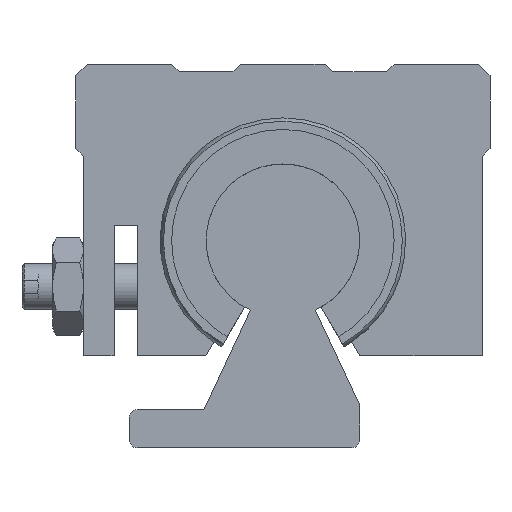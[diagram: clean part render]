
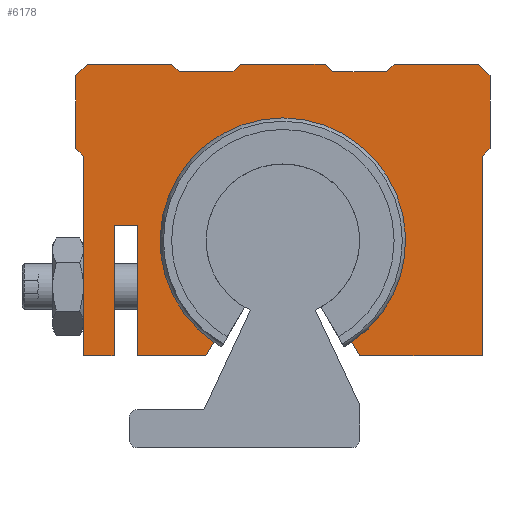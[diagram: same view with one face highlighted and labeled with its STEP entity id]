
A CAD part, left-side view. The second image highlights one B-rep face of the part: STEP entity #6178.
In plain terms, the highlighted planar face has unit normal (-1, 0, 0).
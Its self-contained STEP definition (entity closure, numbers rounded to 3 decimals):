
#4931=CARTESIAN_POINT('',(272.131,-9.0,13.771));
#4932=VERTEX_POINT('',#4931);
#4939=CARTESIAN_POINT('',(272.131,9.0,13.771));
#4940=VERTEX_POINT('',#4939);
#4941=CARTESIAN_POINT('',(272.131,0.0,27.0));
#4942=DIRECTION('',(-1.0,0.0,0.0));
#4943=DIRECTION('',(0.0,-1.0,0.0));
#4944=AXIS2_PLACEMENT_3D('',#4941,#4942,#4943);
#4945=CIRCLE('',#4944,16.0);
#4946=EDGE_CURVE('',#4932,#4940,#4945,.T.);
#5038=CARTESIAN_POINT('',(272.131,-5.5,50.0));
#5039=VERTEX_POINT('',#5038);
#5040=CARTESIAN_POINT('',(272.131,-6.5,49.0));
#5041=VERTEX_POINT('',#5040);
#5042=CARTESIAN_POINT('',(272.131,-5.5,50.0));
#5043=DIRECTION('',(0.0,-0.707,-0.707));
#5044=VECTOR('',#5043,1.414);
#5045=LINE('',#5042,#5044);
#5046=EDGE_CURVE('',#5039,#5041,#5045,.T.);
#5079=CARTESIAN_POINT('',(272.131,-13.5,49.0));
#5080=VERTEX_POINT('',#5079);
#5081=CARTESIAN_POINT('',(272.131,-6.5,49.0));
#5082=DIRECTION('',(0.0,-1.0,0.0));
#5083=VECTOR('',#5082,7.);
#5084=LINE('',#5081,#5083);
#5085=EDGE_CURVE('',#5041,#5080,#5084,.T.);
#5109=CARTESIAN_POINT('',(272.131,14.5,50.0));
#5110=VERTEX_POINT('',#5109);
#5111=CARTESIAN_POINT('',(272.131,13.5,49.0));
#5112=VERTEX_POINT('',#5111);
#5113=CARTESIAN_POINT('',(272.131,14.5,50.0));
#5114=DIRECTION('',(0.0,-0.707,-0.707));
#5115=VECTOR('',#5114,1.414);
#5116=LINE('',#5113,#5115);
#5117=EDGE_CURVE('',#5110,#5112,#5116,.T.);
#5150=CARTESIAN_POINT('',(272.131,6.5,49.0));
#5151=VERTEX_POINT('',#5150);
#5152=CARTESIAN_POINT('',(272.131,13.5,49.0));
#5153=DIRECTION('',(0.0,-1.0,0.0));
#5154=VECTOR('',#5153,7.);
#5155=LINE('',#5152,#5154);
#5156=EDGE_CURVE('',#5112,#5151,#5155,.T.);
#5180=CARTESIAN_POINT('',(272.131,5.5,50.0));
#5181=VERTEX_POINT('',#5180);
#5182=CARTESIAN_POINT('',(272.131,6.5,49.0));
#5183=DIRECTION('',(0.0,-0.707,0.707));
#5184=VECTOR('',#5183,1.414);
#5185=LINE('',#5182,#5184);
#5186=EDGE_CURVE('',#5151,#5181,#5185,.T.);
#5211=CARTESIAN_POINT('',(272.131,-14.5,50.0));
#5212=VERTEX_POINT('',#5211);
#5213=CARTESIAN_POINT('',(272.131,-13.5,49.0));
#5214=DIRECTION('',(0.0,-0.707,0.707));
#5215=VECTOR('',#5214,1.414);
#5216=LINE('',#5213,#5215);
#5217=EDGE_CURVE('',#5080,#5212,#5216,.T.);
#5242=CARTESIAN_POINT('',(272.131,26.0,38.0));
#5243=VERTEX_POINT('',#5242);
#5244=CARTESIAN_POINT('',(272.131,27.0,39.0));
#5245=VERTEX_POINT('',#5244);
#5246=CARTESIAN_POINT('',(272.131,26.0,38.0));
#5247=DIRECTION('',(0.0,0.707,0.707));
#5248=VECTOR('',#5247,1.414);
#5249=LINE('',#5246,#5248);
#5250=EDGE_CURVE('',#5243,#5245,#5249,.T.);
#5282=CARTESIAN_POINT('',(272.131,-27.0,39.0));
#5283=VERTEX_POINT('',#5282);
#5284=CARTESIAN_POINT('',(272.131,-26.0,38.0));
#5285=VERTEX_POINT('',#5284);
#5286=CARTESIAN_POINT('',(272.131,-27.0,39.0));
#5287=DIRECTION('',(0.0,0.707,-0.707));
#5288=VECTOR('',#5287,1.414);
#5289=LINE('',#5286,#5288);
#5290=EDGE_CURVE('',#5283,#5285,#5289,.T.);
#5323=CARTESIAN_POINT('',(272.131,-26.0,12.));
#5324=VERTEX_POINT('',#5323);
#5325=CARTESIAN_POINT('',(272.131,-26.0,38.0));
#5326=DIRECTION('',(0.0,0.0,-1.0));
#5327=VECTOR('',#5326,26.);
#5328=LINE('',#5325,#5327);
#5329=EDGE_CURVE('',#5285,#5324,#5328,.T.);
#5363=CARTESIAN_POINT('',(272.131,27.0,48.5));
#5364=VERTEX_POINT('',#5363);
#5371=CARTESIAN_POINT('',(272.131,25.5,50.0));
#5372=VERTEX_POINT('',#5371);
#5373=CARTESIAN_POINT('',(272.131,27.0,48.5));
#5374=DIRECTION('',(0.0,-0.707,0.707));
#5375=VECTOR('',#5374,2.121);
#5376=LINE('',#5373,#5375);
#5377=EDGE_CURVE('',#5364,#5372,#5376,.T.);
#5401=CARTESIAN_POINT('',(272.131,27.0,39.0));
#5402=DIRECTION('',(0.0,0.0,1.0));
#5403=VECTOR('',#5402,9.5);
#5404=LINE('',#5401,#5403);
#5405=EDGE_CURVE('',#5245,#5364,#5404,.T.);
#5538=CARTESIAN_POINT('',(272.131,-25.5,50.0));
#5539=VERTEX_POINT('',#5538);
#5546=CARTESIAN_POINT('',(272.131,-27.0,48.5));
#5547=VERTEX_POINT('',#5546);
#5548=CARTESIAN_POINT('',(272.131,-25.5,50.0));
#5549=DIRECTION('',(0.0,-0.707,-0.707));
#5550=VECTOR('',#5549,2.121);
#5551=LINE('',#5548,#5550);
#5552=EDGE_CURVE('',#5539,#5547,#5551,.T.);
#5571=CARTESIAN_POINT('',(272.131,-14.5,50.0));
#5572=DIRECTION('',(0.0,-1.0,0.0));
#5573=VECTOR('',#5572,11.);
#5574=LINE('',#5571,#5573);
#5575=EDGE_CURVE('',#5212,#5539,#5574,.T.);
#5909=CARTESIAN_POINT('',(272.131,26.0,12.));
#5910=VERTEX_POINT('',#5909);
#5917=CARTESIAN_POINT('',(272.131,26.0,12.));
#5918=DIRECTION('',(0.0,0.0,1.0));
#5919=VECTOR('',#5918,26.);
#5920=LINE('',#5917,#5919);
#5921=EDGE_CURVE('',#5910,#5243,#5920,.T.);
#5940=CARTESIAN_POINT('',(272.131,22.,12.));
#5941=VERTEX_POINT('',#5940);
#5948=CARTESIAN_POINT('',(272.131,22.,12.));
#5949=DIRECTION('',(0.0,1.0,0.0));
#5950=VECTOR('',#5949,4.);
#5951=LINE('',#5948,#5950);
#5952=EDGE_CURVE('',#5941,#5910,#5951,.T.);
#5964=CARTESIAN_POINT('',(272.131,22.,29.));
#5965=VERTEX_POINT('',#5964);
#5972=CARTESIAN_POINT('',(272.131,22.,29.));
#5973=DIRECTION('',(0.0,0.0,-1.0));
#5974=VECTOR('',#5973,17.0);
#5975=LINE('',#5972,#5974);
#5976=EDGE_CURVE('',#5965,#5941,#5975,.T.);
#5991=CARTESIAN_POINT('',(272.131,19.,29.));
#5992=VERTEX_POINT('',#5991);
#5999=CARTESIAN_POINT('',(272.131,19.,29.));
#6000=DIRECTION('',(0.0,1.0,0.0));
#6001=VECTOR('',#6000,3.);
#6002=LINE('',#5999,#6001);
#6003=EDGE_CURVE('',#5992,#5965,#6002,.T.);
#6015=CARTESIAN_POINT('',(272.131,19.0,12.));
#6016=VERTEX_POINT('',#6015);
#6023=CARTESIAN_POINT('',(272.131,19.0,12.));
#6024=DIRECTION('',(0.0,0.0,1.0));
#6025=VECTOR('',#6024,17.0);
#6026=LINE('',#6023,#6025);
#6027=EDGE_CURVE('',#6016,#5992,#6026,.T.);
#6042=CARTESIAN_POINT('',(272.131,10.023,12.));
#6043=VERTEX_POINT('',#6042);
#6050=CARTESIAN_POINT('',(272.131,10.023,12.));
#6051=DIRECTION('',(0.0,1.0,0.0));
#6052=VECTOR('',#6051,8.977);
#6053=LINE('',#6050,#6052);
#6054=EDGE_CURVE('',#6043,#6016,#6053,.T.);
#6073=CARTESIAN_POINT('',(272.131,9.0,13.771));
#6074=DIRECTION('',(0.0,0.5,-0.866));
#6075=VECTOR('',#6074,2.045);
#6076=LINE('',#6073,#6075);
#6077=EDGE_CURVE('',#4940,#6043,#6076,.T.);
#6089=CARTESIAN_POINT('',(272.131,-10.023,12.));
#6090=VERTEX_POINT('',#6089);
#6097=CARTESIAN_POINT('',(272.131,-10.023,12.));
#6098=DIRECTION('',(0.0,0.5,0.866));
#6099=VECTOR('',#6098,2.045);
#6100=LINE('',#6097,#6099);
#6101=EDGE_CURVE('',#6090,#4932,#6100,.T.);
#6120=CARTESIAN_POINT('',(272.131,-26.0,12.));
#6121=DIRECTION('',(0.0,1.0,0.0));
#6122=VECTOR('',#6121,15.977);
#6123=LINE('',#6120,#6122);
#6124=EDGE_CURVE('',#5324,#6090,#6123,.T.);
#6130=CARTESIAN_POINT('',(272.131,2.476,30.276));
#6131=DIRECTION('',(1.0,0.0,0.0));
#6132=DIRECTION('',(0.0,0.0,-1.0));
#6133=AXIS2_PLACEMENT_3D('',#6130,#6131,#6132);
#6134=PLANE('',#6133);
#6135=ORIENTED_EDGE('',*,*,#5377,.F.);
#6136=ORIENTED_EDGE('',*,*,#5405,.F.);
#6137=ORIENTED_EDGE('',*,*,#5250,.F.);
#6138=ORIENTED_EDGE('',*,*,#5921,.F.);
#6139=ORIENTED_EDGE('',*,*,#5952,.F.);
#6140=ORIENTED_EDGE('',*,*,#5976,.F.);
#6141=ORIENTED_EDGE('',*,*,#6003,.F.);
#6142=ORIENTED_EDGE('',*,*,#6027,.F.);
#6143=ORIENTED_EDGE('',*,*,#6054,.F.);
#6144=ORIENTED_EDGE('',*,*,#6077,.F.);
#6145=ORIENTED_EDGE('',*,*,#4946,.F.);
#6146=ORIENTED_EDGE('',*,*,#6101,.F.);
#6147=ORIENTED_EDGE('',*,*,#6124,.F.);
#6148=ORIENTED_EDGE('',*,*,#5329,.F.);
#6149=ORIENTED_EDGE('',*,*,#5290,.F.);
#6150=CARTESIAN_POINT('',(272.131,-27.0,48.5));
#6151=DIRECTION('',(0.0,0.0,-1.0));
#6152=VECTOR('',#6151,9.5);
#6153=LINE('',#6150,#6152);
#6154=EDGE_CURVE('',#5547,#5283,#6153,.T.);
#6155=ORIENTED_EDGE('',*,*,#6154,.F.);
#6156=ORIENTED_EDGE('',*,*,#5552,.F.);
#6157=ORIENTED_EDGE('',*,*,#5575,.F.);
#6158=ORIENTED_EDGE('',*,*,#5217,.F.);
#6159=ORIENTED_EDGE('',*,*,#5085,.F.);
#6160=ORIENTED_EDGE('',*,*,#5046,.F.);
#6161=CARTESIAN_POINT('',(272.131,5.5,50.0));
#6162=DIRECTION('',(0.0,-1.0,0.0));
#6163=VECTOR('',#6162,11.0);
#6164=LINE('',#6161,#6163);
#6165=EDGE_CURVE('',#5181,#5039,#6164,.T.);
#6166=ORIENTED_EDGE('',*,*,#6165,.F.);
#6167=ORIENTED_EDGE('',*,*,#5186,.F.);
#6168=ORIENTED_EDGE('',*,*,#5156,.F.);
#6169=ORIENTED_EDGE('',*,*,#5117,.F.);
#6170=CARTESIAN_POINT('',(272.131,25.5,50.0));
#6171=DIRECTION('',(0.0,-1.0,0.0));
#6172=VECTOR('',#6171,11.);
#6173=LINE('',#6170,#6172);
#6174=EDGE_CURVE('',#5372,#5110,#6173,.T.);
#6175=ORIENTED_EDGE('',*,*,#6174,.F.);
#6176=EDGE_LOOP('',(#6135,#6136,#6137,#6138,#6139,#6140,#6141,#6142,#6143,#6144,#6145,#6146,#6147,#6148,#6149,#6155,#6156,#6157,#6158,#6159,#6160,#6166,#6167,#6168,#6169,#6175));
#6177=FACE_OUTER_BOUND('',#6176,.T.);
#6178=ADVANCED_FACE('',(#6177),#6134,.F.);
